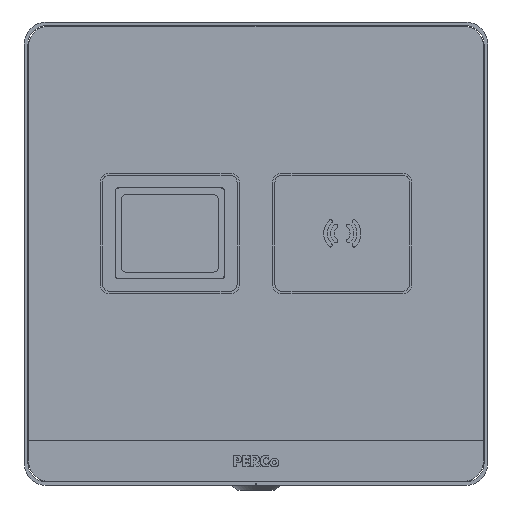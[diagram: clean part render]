
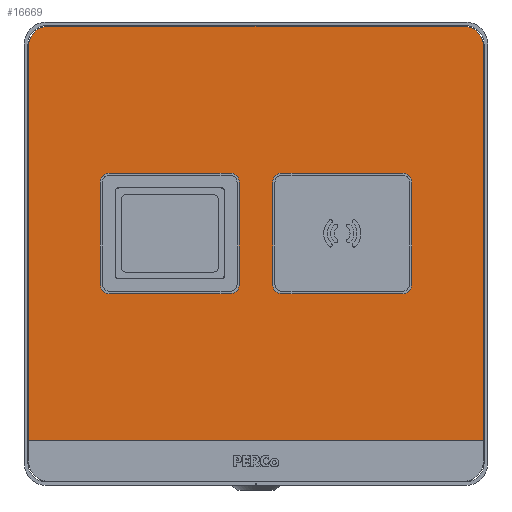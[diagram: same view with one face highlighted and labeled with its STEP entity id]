
A CAD part, front view. The second image highlights one B-rep face of the part: STEP entity #16669.
In plain terms, the highlighted planar face has unit normal (0, -1, 0).
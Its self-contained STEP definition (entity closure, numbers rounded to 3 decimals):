
#720=LINE('',#30000,#2268);
#732=LINE('',#30026,#2280);
#735=LINE('',#30034,#2283);
#738=LINE('',#30042,#2286);
#748=LINE('',#30081,#2296);
#764=LINE('',#30123,#2312);
#767=LINE('',#30131,#2315);
#770=LINE('',#30139,#2318);
#772=LINE('',#30145,#2320);
#823=LINE('',#30301,#2371);
#833=LINE('',#30325,#2381);
#835=LINE('',#30333,#2383);
#2268=VECTOR('',#23533,1000.);
#2280=VECTOR('',#23567,1000.);
#2283=VECTOR('',#23576,1000.);
#2286=VECTOR('',#23585,1000.);
#2296=VECTOR('',#23619,1000.);
#2312=VECTOR('',#23665,1000.);
#2315=VECTOR('',#23674,1000.);
#2318=VECTOR('',#23683,1000.);
#2320=VECTOR('',#23691,1000.);
#2371=VECTOR('',#23840,1000.);
#2381=VECTOR('',#23862,1000.);
#2383=VECTOR('',#23872,1000.);
#3647=PLANE('',#21276);
#5590=ORIENTED_EDGE('',*,*,#9468,.T.);
#5591=ORIENTED_EDGE('',*,*,#9466,.T.);
#5592=ORIENTED_EDGE('',*,*,#9464,.T.);
#5593=ORIENTED_EDGE('',*,*,#9462,.T.);
#5594=ORIENTED_EDGE('',*,*,#9460,.T.);
#5595=ORIENTED_EDGE('',*,*,#9458,.T.);
#5596=ORIENTED_EDGE('',*,*,#9456,.T.);
#5597=ORIENTED_EDGE('',*,*,#9445,.T.);
#5598=ORIENTED_EDGE('',*,*,#9514,.F.);
#5599=ORIENTED_EDGE('',*,*,#9516,.F.);
#5600=ORIENTED_EDGE('',*,*,#9485,.F.);
#5601=ORIENTED_EDGE('',*,*,#9504,.F.);
#5602=ORIENTED_EDGE('',*,*,#9506,.F.);
#5603=ORIENTED_EDGE('',*,*,#9508,.F.);
#5604=ORIENTED_EDGE('',*,*,#9510,.F.);
#5605=ORIENTED_EDGE('',*,*,#9512,.F.);
#5606=ORIENTED_EDGE('',*,*,#9594,.F.);
#5607=ORIENTED_EDGE('',*,*,#9517,.T.);
#5608=ORIENTED_EDGE('',*,*,#9606,.F.);
#5609=ORIENTED_EDGE('',*,*,#9607,.F.);
#5610=ORIENTED_EDGE('',*,*,#9610,.F.);
#5611=ORIENTED_EDGE('',*,*,#9613,.F.);
#9445=EDGE_CURVE('',#11621,#11622,#720,.T.);
#9456=EDGE_CURVE('',#11623,#11621,#12965,.T.);
#9458=EDGE_CURVE('',#11624,#11623,#732,.T.);
#9460=EDGE_CURVE('',#11625,#11624,#12966,.T.);
#9462=EDGE_CURVE('',#11626,#11625,#735,.T.);
#9464=EDGE_CURVE('',#11627,#11626,#12967,.T.);
#9466=EDGE_CURVE('',#11628,#11627,#738,.T.);
#9468=EDGE_CURVE('',#11622,#11628,#12968,.T.);
#9485=EDGE_CURVE('',#11645,#11646,#748,.T.);
#9504=EDGE_CURVE('',#11655,#11645,#12981,.T.);
#9506=EDGE_CURVE('',#11656,#11655,#764,.T.);
#9508=EDGE_CURVE('',#11657,#11656,#12982,.T.);
#9510=EDGE_CURVE('',#11658,#11657,#767,.T.);
#9512=EDGE_CURVE('',#11659,#11658,#12983,.T.);
#9514=EDGE_CURVE('',#11660,#11659,#770,.T.);
#9516=EDGE_CURVE('',#11646,#11660,#12984,.T.);
#9517=EDGE_CURVE('',#11661,#11662,#772,.T.);
#9594=EDGE_CURVE('',#11661,#11717,#823,.T.);
#9606=EDGE_CURVE('',#11724,#11662,#833,.T.);
#9607=EDGE_CURVE('',#11725,#11724,#13013,.T.);
#9610=EDGE_CURVE('',#11727,#11725,#835,.T.);
#9613=EDGE_CURVE('',#11717,#11727,#13015,.T.);
#11621=VERTEX_POINT('',#30001);
#11622=VERTEX_POINT('',#30002);
#11623=VERTEX_POINT('',#30023);
#11624=VERTEX_POINT('',#30027);
#11625=VERTEX_POINT('',#30031);
#11626=VERTEX_POINT('',#30035);
#11627=VERTEX_POINT('',#30039);
#11628=VERTEX_POINT('',#30043);
#11645=VERTEX_POINT('',#30082);
#11646=VERTEX_POINT('',#30083);
#11655=VERTEX_POINT('',#30120);
#11656=VERTEX_POINT('',#30124);
#11657=VERTEX_POINT('',#30128);
#11658=VERTEX_POINT('',#30132);
#11659=VERTEX_POINT('',#30136);
#11660=VERTEX_POINT('',#30140);
#11661=VERTEX_POINT('',#30146);
#11662=VERTEX_POINT('',#30147);
#11717=VERTEX_POINT('',#30302);
#11724=VERTEX_POINT('',#30324);
#11725=VERTEX_POINT('',#30328);
#11727=VERTEX_POINT('',#30334);
#12965=CIRCLE('',#21165,5.);
#12966=CIRCLE('',#21168,5.);
#12967=CIRCLE('',#21171,5.);
#12968=CIRCLE('',#21174,5.);
#12981=CIRCLE('',#21198,5.);
#12982=CIRCLE('',#21201,5.);
#12983=CIRCLE('',#21204,5.);
#12984=CIRCLE('',#21207,5.);
#13013=CIRCLE('',#21265,11.);
#13015=CIRCLE('',#21269,11.);
#13858=EDGE_LOOP('',(#5590,#5591,#5592,#5593,#5594,#5595,#5596,#5597));
#13859=EDGE_LOOP('',(#5598,#5599,#5600,#5601,#5602,#5603,#5604,#5605));
#13860=EDGE_LOOP('',(#5606,#5607,#5608,#5609,#5610,#5611));
#15180=FACE_BOUND('',#13858,.T.);
#15181=FACE_BOUND('',#13859,.T.);
#15182=FACE_BOUND('',#13860,.T.);
#16669=ADVANCED_FACE('',(#15180,#15181,#15182),#3647,.F.);
#21165=AXIS2_PLACEMENT_3D('',#30022,#23562,#23563);
#21168=AXIS2_PLACEMENT_3D('',#30030,#23571,#23572);
#21171=AXIS2_PLACEMENT_3D('',#30038,#23580,#23581);
#21174=AXIS2_PLACEMENT_3D('',#30046,#23589,#23590);
#21198=AXIS2_PLACEMENT_3D('',#30119,#23660,#23661);
#21201=AXIS2_PLACEMENT_3D('',#30127,#23669,#23670);
#21204=AXIS2_PLACEMENT_3D('',#30135,#23678,#23679);
#21207=AXIS2_PLACEMENT_3D('',#30143,#23687,#23688);
#21265=AXIS2_PLACEMENT_3D('',#30327,#23865,#23866);
#21269=AXIS2_PLACEMENT_3D('',#30339,#23877,#23878);
#21276=AXIS2_PLACEMENT_3D('',#30350,#23895,#23896);
#23533=DIRECTION('',(0.,0.,1.));
#23562=DIRECTION('',(0.,1.,0.));
#23563=DIRECTION('',(1.,0.,0.));
#23567=DIRECTION('',(-1.,0.,0.));
#23571=DIRECTION('',(0.,1.,0.));
#23572=DIRECTION('',(1.,0.,0.));
#23576=DIRECTION('',(0.,0.,-1.));
#23580=DIRECTION('',(0.,1.,0.));
#23581=DIRECTION('',(-1.,0.,0.));
#23585=DIRECTION('',(1.,0.,0.));
#23589=DIRECTION('',(0.,1.,0.));
#23590=DIRECTION('',(1.,0.,0.));
#23619=DIRECTION('',(0.,0.,1.));
#23660=DIRECTION('',(0.,-1.,0.));
#23661=DIRECTION('',(-1.,0.,0.));
#23665=DIRECTION('',(1.,0.,0.));
#23669=DIRECTION('',(0.,-1.,0.));
#23670=DIRECTION('',(1.,0.,0.));
#23674=DIRECTION('',(0.,0.,-1.));
#23678=DIRECTION('',(0.,-1.,0.));
#23679=DIRECTION('',(1.,0.,0.));
#23683=DIRECTION('',(-1.,0.,0.));
#23687=DIRECTION('',(0.,-1.,0.));
#23688=DIRECTION('',(-1.,0.,0.));
#23691=DIRECTION('',(1.,0.,0.));
#23840=DIRECTION('',(0.,0.,1.));
#23862=DIRECTION('',(0.,0.,-1.));
#23865=DIRECTION('',(0.,1.,0.));
#23866=DIRECTION('',(-1.,0.,0.));
#23872=DIRECTION('',(1.,0.,0.));
#23877=DIRECTION('',(0.,1.,0.));
#23878=DIRECTION('',(1.,0.,0.));
#23895=DIRECTION('',(0.,1.,0.));
#23896=DIRECTION('',(-1.,0.,0.));
#30000=CARTESIAN_POINT('',(9.,-50.935,-16.5));
#30001=CARTESIAN_POINT('',(9.,-50.935,-16.5));
#30002=CARTESIAN_POINT('',(9.,-50.935,38.5));
#30022=CARTESIAN_POINT('',(14.,-50.935,-16.5));
#30023=CARTESIAN_POINT('',(14.,-50.935,-21.5));
#30026=CARTESIAN_POINT('',(79.,-50.935,-21.5));
#30027=CARTESIAN_POINT('',(79.,-50.935,-21.5));
#30030=CARTESIAN_POINT('',(79.,-50.935,-16.5));
#30031=CARTESIAN_POINT('',(84.,-50.935,-16.5));
#30034=CARTESIAN_POINT('',(84.,-50.935,38.5));
#30035=CARTESIAN_POINT('',(84.,-50.935,38.5));
#30038=CARTESIAN_POINT('',(79.,-50.935,38.5));
#30039=CARTESIAN_POINT('',(79.,-50.935,43.5));
#30042=CARTESIAN_POINT('',(14.,-50.935,43.5));
#30043=CARTESIAN_POINT('',(14.,-50.935,43.5));
#30046=CARTESIAN_POINT('',(14.,-50.935,38.5));
#30081=CARTESIAN_POINT('',(-9.,-50.935,-16.5));
#30082=CARTESIAN_POINT('',(-9.,-50.935,-16.5));
#30083=CARTESIAN_POINT('',(-9.,-50.935,38.5));
#30119=CARTESIAN_POINT('',(-14.,-50.935,-16.5));
#30120=CARTESIAN_POINT('',(-14.,-50.935,-21.5));
#30123=CARTESIAN_POINT('',(-79.,-50.935,-21.5));
#30124=CARTESIAN_POINT('',(-79.,-50.935,-21.5));
#30127=CARTESIAN_POINT('',(-79.,-50.935,-16.5));
#30128=CARTESIAN_POINT('',(-84.,-50.935,-16.5));
#30131=CARTESIAN_POINT('',(-84.,-50.935,38.5));
#30132=CARTESIAN_POINT('',(-84.,-50.935,38.5));
#30135=CARTESIAN_POINT('',(-79.,-50.935,38.5));
#30136=CARTESIAN_POINT('',(-79.,-50.935,43.5));
#30139=CARTESIAN_POINT('',(-14.,-50.935,43.5));
#30140=CARTESIAN_POINT('',(-14.,-50.935,43.5));
#30143=CARTESIAN_POINT('',(-14.,-50.935,38.5));
#30145=CARTESIAN_POINT('',(-122.75,-50.935,-100.75));
#30146=CARTESIAN_POINT('',(-122.75,-50.935,-100.75));
#30147=CARTESIAN_POINT('',(122.75,-50.935,-100.75));
#30301=CARTESIAN_POINT('',(-122.75,-50.935,111.75));
#30302=CARTESIAN_POINT('',(-122.75,-50.935,111.75));
#30324=CARTESIAN_POINT('',(122.75,-50.935,111.75));
#30325=CARTESIAN_POINT('',(122.75,-50.935,-111.75));
#30327=CARTESIAN_POINT('',(111.75,-50.935,111.75));
#30328=CARTESIAN_POINT('',(111.75,-50.935,122.75));
#30333=CARTESIAN_POINT('',(-111.75,-50.935,122.75));
#30334=CARTESIAN_POINT('',(-111.75,-50.935,122.75));
#30339=CARTESIAN_POINT('',(-111.75,-50.935,111.75));
#30350=CARTESIAN_POINT('',(-111.75,-50.935,111.75));
